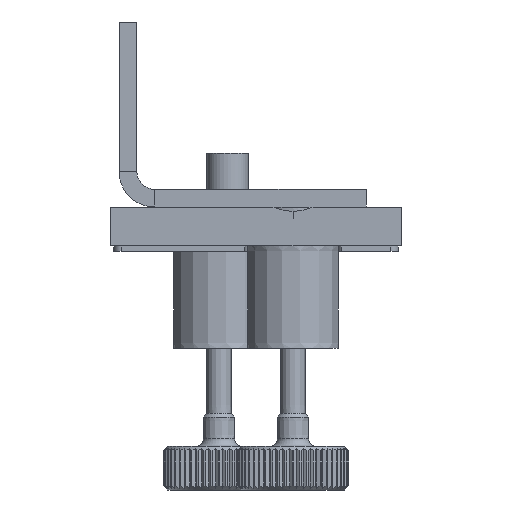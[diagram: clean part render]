
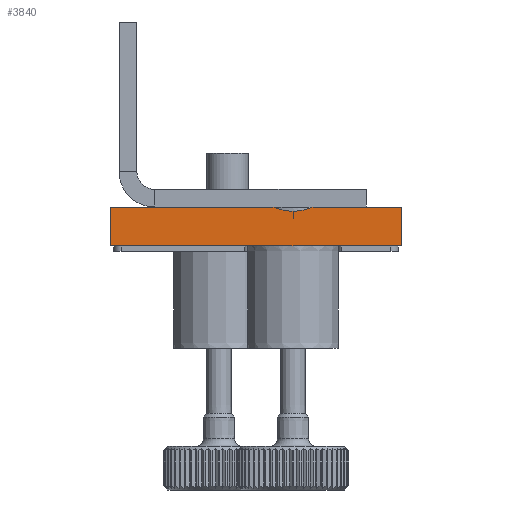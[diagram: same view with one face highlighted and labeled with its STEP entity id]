
A CAD part, front view. The second image highlights one B-rep face of the part: STEP entity #3840.
In plain terms, the highlighted planar face has unit normal (0, -1, 0).
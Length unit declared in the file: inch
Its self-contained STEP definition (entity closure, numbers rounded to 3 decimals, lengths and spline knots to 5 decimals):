
#62=DIRECTION('',(1.,0.,0.));
#63=VECTOR('',#62,0.4398);
#64=CARTESIAN_POINT('',(-0.394,-2.532,0.105));
#65=LINE('',#64,#63);
#87=DIRECTION('',(1.,0.,0.));
#88=VECTOR('',#87,0.2398);
#89=CARTESIAN_POINT('',(0.1542,-2.532,0.105));
#90=LINE('',#89,#88);
#197=DIRECTION('',(1.,0.,0.));
#198=VECTOR('',#197,0.02211);
#199=CARTESIAN_POINT('',(0.08894,-2.532,0.));
#200=LINE('',#199,#198);
#201=DIRECTION('',(0.,0.,1.));
#202=VECTOR('',#201,0.105);
#203=CARTESIAN_POINT('',(-0.394,-2.532,0.));
#204=LINE('',#203,#202);
#205=CARTESIAN_POINT('',(0.0458,-2.532,0.105));
#206=CARTESIAN_POINT('',(0.0476,-2.532,
0.10427));
#207=CARTESIAN_POINT('',(0.05121,-2.532,
0.10286));
#208=CARTESIAN_POINT('',(0.05667,-2.532,
0.10093));
#209=CARTESIAN_POINT('',(0.06214,-2.532,
0.0992));
#210=CARTESIAN_POINT('',(0.0676,-2.532,
0.09769));
#211=CARTESIAN_POINT('',(0.07307,-2.532,
0.0964));
#212=CARTESIAN_POINT('',(0.07853,-2.532,
0.09534));
#213=CARTESIAN_POINT('',(0.08396,-2.532,
0.09451));
#214=CARTESIAN_POINT('',(0.08937,-2.532,
0.09392));
#215=CARTESIAN_POINT('',(0.09473,-2.532,
0.09357));
#216=CARTESIAN_POINT('',(0.09827,-2.532,
0.0935));
#217=CARTESIAN_POINT('',(0.10003,-2.532,
0.0935));
#219=CARTESIAN_POINT('',(0.10003,-2.532,
0.0935));
#220=CARTESIAN_POINT('',(0.10179,-2.532,
0.0935));
#221=CARTESIAN_POINT('',(0.10534,-2.532,
0.09358));
#222=CARTESIAN_POINT('',(0.11072,-2.532,
0.09393));
#223=CARTESIAN_POINT('',(0.11614,-2.532,
0.09452));
#224=CARTESIAN_POINT('',(0.12158,-2.532,
0.09535));
#225=CARTESIAN_POINT('',(0.12704,-2.532,
0.09642));
#226=CARTESIAN_POINT('',(0.13251,-2.532,
0.09772));
#227=CARTESIAN_POINT('',(0.13796,-2.532,
0.09923));
#228=CARTESIAN_POINT('',(0.1434,-2.532,
0.10096));
#229=CARTESIAN_POINT('',(0.14883,-2.532,
0.10287));
#230=CARTESIAN_POINT('',(0.15241,-2.532,
0.10427));
#231=CARTESIAN_POINT('',(0.1542,-2.532,0.105));
#335=DIRECTION('',(1.,0.,0.));
#336=VECTOR('',#335,0.48294);
#337=CARTESIAN_POINT('',(-0.394,-2.532,0.));
#338=LINE('',#337,#336);
#361=CARTESIAN_POINT('',(0.08894,-2.532,0.));
#401=CARTESIAN_POINT('',(0.11106,-2.532,0.));
#418=DIRECTION('',(1.,0.,0.));
#419=VECTOR('',#418,0.28294);
#420=CARTESIAN_POINT('',(0.11106,-2.532,0.));
#421=LINE('',#420,#419);
#543=DIRECTION('',(0.,0.,1.));
#544=VECTOR('',#543,0.105);
#545=CARTESIAN_POINT('',(0.394,-2.532,0.));
#546=LINE('',#545,#544);
#3116=CARTESIAN_POINT('',(-0.394,-2.532,0.));
#3118=VERTEX_POINT('',#3116);
#3119=CARTESIAN_POINT('',(0.394,-2.532,0.));
#3121=VERTEX_POINT('',#3119);
#3124=CARTESIAN_POINT('',(-0.394,-2.532,0.105));
#3126=VERTEX_POINT('',#3124);
#3127=CARTESIAN_POINT('',(0.394,-2.532,0.105));
#3129=VERTEX_POINT('',#3127);
#3153=VERTEX_POINT('',#219);
#3154=VERTEX_POINT('',#231);
#3161=VERTEX_POINT('',#205);
#3292=VERTEX_POINT('',#361);
#3293=VERTEX_POINT('',#401);
#3818=CARTESIAN_POINT('',(-0.394,-2.532,0.));
#3819=DIRECTION('',(0.,-1.,0.));
#3820=DIRECTION('',(1.,0.,0.));
#3821=AXIS2_PLACEMENT_3D('',#3818,#3819,#3820);
#3822=PLANE('',#3821);
#3824=ORIENTED_EDGE('',*,*,#3823,.F.);
#3826=ORIENTED_EDGE('',*,*,#3825,.F.);
#3828=ORIENTED_EDGE('',*,*,#3827,.T.);
#3829=ORIENTED_EDGE('',*,*,#3707,.T.);
#3831=ORIENTED_EDGE('',*,*,#3830,.T.);
#3832=ORIENTED_EDGE('',*,*,#3806,.T.);
#3833=ORIENTED_EDGE('',*,*,#3721,.T.);
#3835=ORIENTED_EDGE('',*,*,#3834,.F.);
#3837=ORIENTED_EDGE('',*,*,#3836,.F.);
#3838=EDGE_LOOP('',(#3824,#3826,#3828,#3829,#3831,#3832,#3833,#3835,#3837));
#3839=FACE_OUTER_BOUND('',#3838,.F.);
#3840=ADVANCED_FACE('',(#3839),#3822,.T.);
#218=B_SPLINE_CURVE_WITH_KNOTS('',3,(#205,#206,#207,#208,#209,#210,#211,#212,
#213,#214,#215,#216,#217),.UNSPECIFIED.,.F.,.F.,(4,1,1,1,1,1,1,1,1,1,4),(0.,
0.1,0.2,0.3,0.4,0.5,0.6,0.7,0.8,0.9,1.),.UNSPECIFIED.);
#232=B_SPLINE_CURVE_WITH_KNOTS('',3,(#219,#220,#221,#222,#223,#224,#225,#226,
#227,#228,#229,#230,#231),.UNSPECIFIED.,.F.,.F.,(4,1,1,1,1,1,1,1,1,1,4),(0.,
0.1,0.2,0.3,0.4,0.5,0.6,0.7,0.8,0.9,1.),.UNSPECIFIED.);
#3707=EDGE_CURVE('',#3126,#3161,#65,.T.);
#3721=EDGE_CURVE('',#3154,#3129,#90,.T.);
#3806=EDGE_CURVE('',#3153,#3154,#232,.T.);
#3823=EDGE_CURVE('',#3292,#3293,#200,.T.);
#3825=EDGE_CURVE('',#3118,#3292,#338,.T.);
#3827=EDGE_CURVE('',#3118,#3126,#204,.T.);
#3830=EDGE_CURVE('',#3161,#3153,#218,.T.);
#3834=EDGE_CURVE('',#3121,#3129,#546,.T.);
#3836=EDGE_CURVE('',#3293,#3121,#421,.T.);
